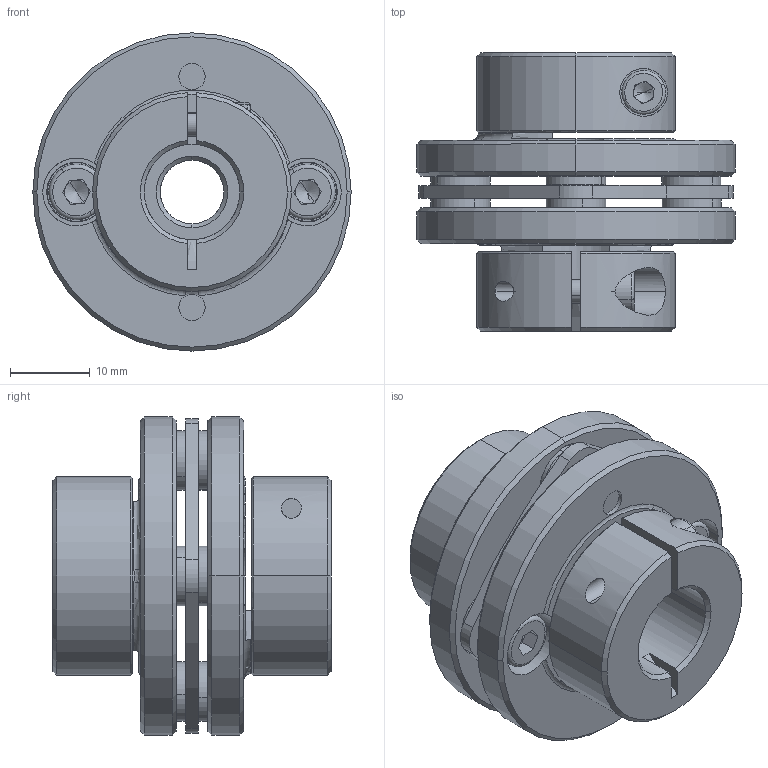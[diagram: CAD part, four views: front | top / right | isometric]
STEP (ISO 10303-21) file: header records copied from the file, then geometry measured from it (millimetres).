
FILE_DESCRIPTION (( 'STEP AP203' ), '1' );
FILE_NAME ('LE1-B-D40L35-8-12.STEP', '2021-11-01T02:09:47', ( '' ), ( '' ), 'SwSTEP 2.0', 'SolidWorks 2018', '' );
FILE_SCHEMA (( 'CONFIG_CONTROL_DESIGN' ));
Length unit declared in the file: millimetre
Products named in the file (1): LE1-B-D40L35-8-12
Bounding box: 40 x 35 x 40 mm (x, y, z)
Volume: 19524.1 mm3; surface area: 12689.2 mm2
Topology: 1 solids, 13 shells, 423 faces, 1021 edges, 630 vertices
Faces by surface type: cylinder 149, plane 140, cone 114, torus 18, bspline 2
Entity records: 12766 total; most frequent: CARTESIAN_POINT 2459, DIRECTION 2335, ORIENTED_EDGE 2018, EDGE_CURVE 1009, AXIS2_PLACEMENT_3D 952, VERTEX_POINT 630, CIRCLE 530, EDGE_LOOP 491
